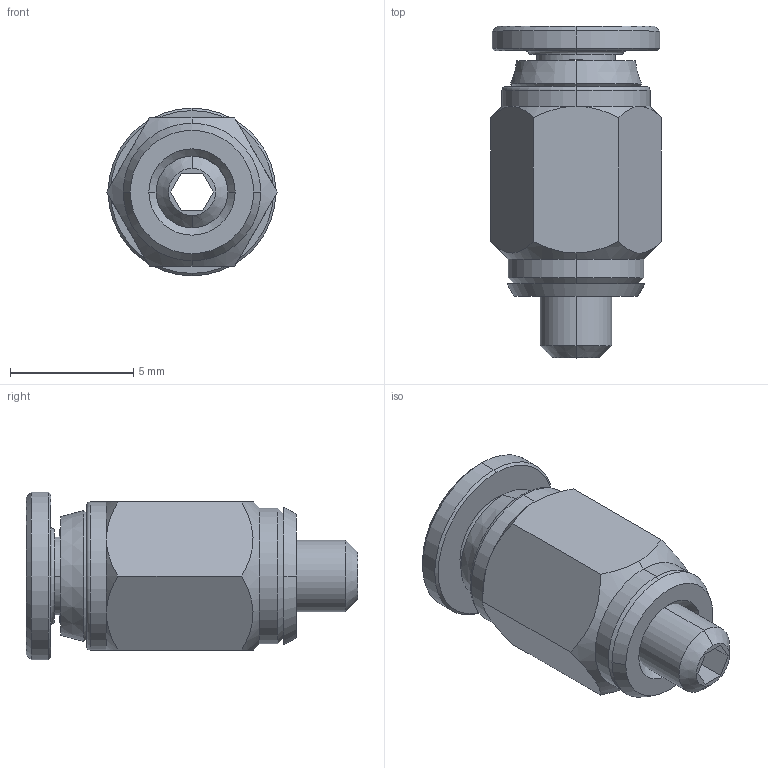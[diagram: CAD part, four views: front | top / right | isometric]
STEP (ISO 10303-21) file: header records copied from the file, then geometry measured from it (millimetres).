
FILE_DESCRIPTION (( 'STEP AP214' ), '1' );
FILE_NAME ('5602000003.STEP', '2016-05-24T07:04:26', ( '' ), ( '' ), 'SwSTEP 2.0', 'SolidWorks 2016', '' );
FILE_SCHEMA (( 'AUTOMOTIVE_DESIGN' ));
Length unit declared in the file: millimetre
Products named in the file (1): 5602000003
Bounding box: 6.93 x 13.45 x 6.8 mm (x, y, z)
Surface area: 455 mm2 (no closed solid volume)
Topology: 0 solids, 6 shells, 73 faces, 190 edges, 124 vertices
Faces by surface type: cone 26, plane 23, cylinder 16, torus 8
Entity records: 3175 total; most frequent: CARTESIAN_POINT 578, DIRECTION 390, ORIENTED_EDGE 328, EDGE_CURVE 190, AXIS2_PLACEMENT_3D 156, VERTEX_POINT 124, CIRCLE 82, EDGE_LOOP 80
